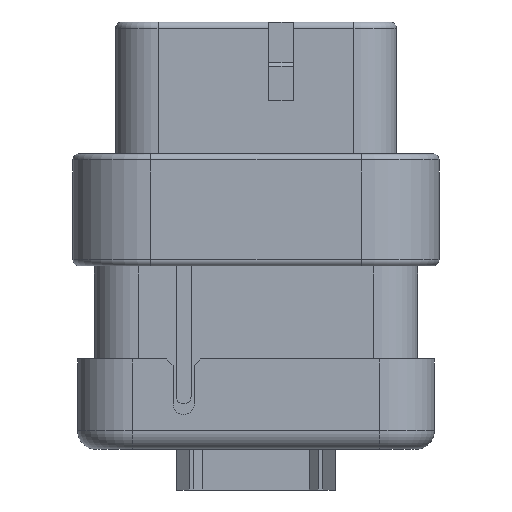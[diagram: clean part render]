
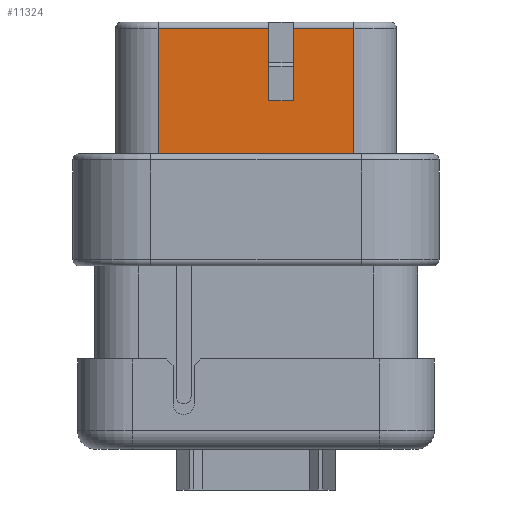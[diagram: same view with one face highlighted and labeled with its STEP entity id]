
A CAD part, front view. The second image highlights one B-rep face of the part: STEP entity #11324.
In plain terms, the highlighted planar face has unit normal (0, -1, 0).
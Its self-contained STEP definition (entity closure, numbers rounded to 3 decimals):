
#2490=DIRECTION('',(0.,0.,-1.));
#2491=VECTOR('',#2490,10.067);
#2492=CARTESIAN_POINT('',(7.85,-9.25,10.05));
#2493=LINE('',#2492,#2491);
#2558=DIRECTION('',(0.,0.,-1.));
#2559=VECTOR('',#2558,5.8);
#2560=CARTESIAN_POINT('',(1.,-9.25,10.05));
#2561=LINE('',#2560,#2559);
#2562=DIRECTION('',(1.,0.,0.));
#2563=VECTOR('',#2562,2.);
#2564=CARTESIAN_POINT('',(1.,-9.25,4.25));
#2565=LINE('',#2564,#2563);
#2566=DIRECTION('',(0.,0.,-1.));
#2567=VECTOR('',#2566,5.8);
#2568=CARTESIAN_POINT('',(3.,-9.25,10.05));
#2569=LINE('',#2568,#2567);
#2570=DIRECTION('',(1.,0.,0.));
#2571=VECTOR('',#2570,4.85);
#2572=CARTESIAN_POINT('',(3.,-9.25,10.05));
#2573=LINE('',#2572,#2571);
#2574=DIRECTION('',(1.,0.,0.));
#2575=VECTOR('',#2574,15.7);
#2576=CARTESIAN_POINT('',(-7.85,-9.25,-0.017));
#2577=LINE('',#2576,#2575);
#2578=DIRECTION('',(0.,0.,-1.));
#2579=VECTOR('',#2578,10.067);
#2580=CARTESIAN_POINT('',(-7.85,-9.25,10.05));
#2581=LINE('',#2580,#2579);
#2582=DIRECTION('',(1.,0.,0.));
#2583=VECTOR('',#2582,8.85);
#2584=CARTESIAN_POINT('',(-7.85,-9.25,10.05));
#2585=LINE('',#2584,#2583);
#7029=CARTESIAN_POINT('',(-7.85,-9.25,-0.017));
#7030=VERTEX_POINT('',#7029);
#7031=CARTESIAN_POINT('',(7.85,-9.25,-0.017));
#7032=VERTEX_POINT('',#7031);
#7044=CARTESIAN_POINT('',(-7.85,-9.25,10.05));
#7046=VERTEX_POINT('',#7044);
#7051=CARTESIAN_POINT('',(7.85,-9.25,10.05));
#7053=VERTEX_POINT('',#7051);
#7803=CARTESIAN_POINT('',(1.,-9.25,10.05));
#7804=CARTESIAN_POINT('',(1.,-9.25,4.25));
#7805=VERTEX_POINT('',#7803);
#7806=VERTEX_POINT('',#7804);
#7807=CARTESIAN_POINT('',(3.,-9.25,10.05));
#7808=CARTESIAN_POINT('',(3.,-9.25,4.25));
#7809=VERTEX_POINT('',#7807);
#7810=VERTEX_POINT('',#7808);
#11307=CARTESIAN_POINT('',(-7.85,-9.25,10.55));
#11308=DIRECTION('',(0.,-1.,0.));
#11309=DIRECTION('',(1.,0.,0.));
#11310=AXIS2_PLACEMENT_3D('',#11307,#11308,#11309);
#11311=PLANE('',#11310);
#11312=ORIENTED_EDGE('',*,*,#11266,.T.);
#11314=ORIENTED_EDGE('',*,*,#11313,.T.);
#11315=ORIENTED_EDGE('',*,*,#11293,.F.);
#11316=ORIENTED_EDGE('',*,*,#11245,.T.);
#11317=ORIENTED_EDGE('',*,*,#11203,.T.);
#11318=ORIENTED_EDGE('',*,*,#9551,.F.);
#11320=ORIENTED_EDGE('',*,*,#11319,.F.);
#11321=ORIENTED_EDGE('',*,*,#11228,.T.);
#11322=EDGE_LOOP('',(#11312,#11314,#11315,#11316,#11317,#11318,#11320,#11321));
#11323=FACE_OUTER_BOUND('',#11322,.F.);
#9551=EDGE_CURVE('',#7030,#7032,#2577,.T.);
#11203=EDGE_CURVE('',#7053,#7032,#2493,.T.);
#11228=EDGE_CURVE('',#7046,#7805,#2585,.T.);
#11245=EDGE_CURVE('',#7809,#7053,#2573,.T.);
#11266=EDGE_CURVE('',#7805,#7806,#2561,.T.);
#11293=EDGE_CURVE('',#7809,#7810,#2569,.T.);
#11313=EDGE_CURVE('',#7806,#7810,#2565,.T.);
#11319=EDGE_CURVE('',#7046,#7030,#2581,.T.);
#11324=ADVANCED_FACE('',(#11323),#11311,.T.);
